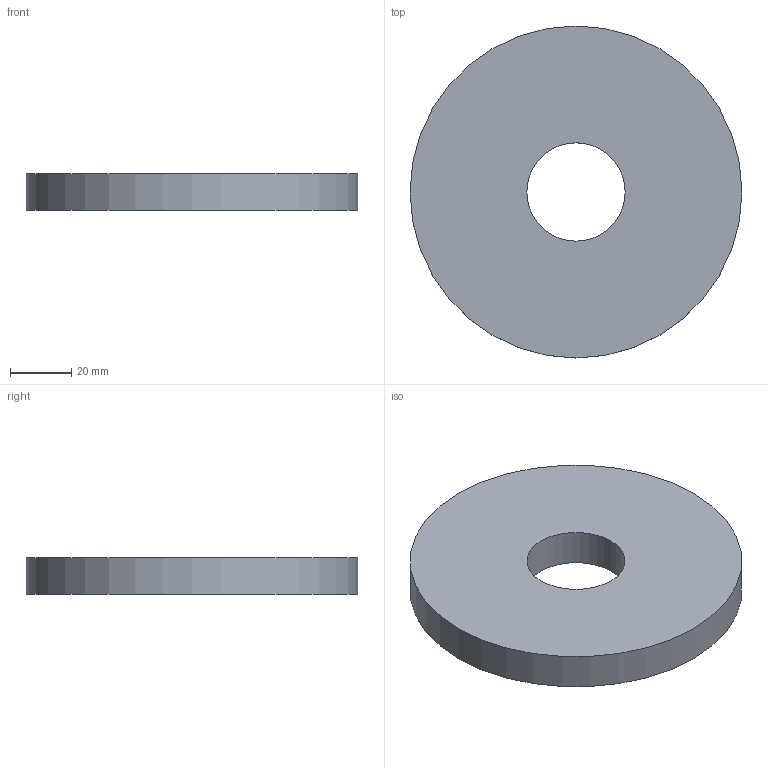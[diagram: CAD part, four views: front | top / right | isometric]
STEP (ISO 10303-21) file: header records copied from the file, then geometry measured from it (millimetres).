
FILE_DESCRIPTION(('FreeCAD Model'),'2;1');
FILE_NAME('Open CASCADE Shape Model','2026-11-05T18:53:51',('FreeCAD'),( 'FreeCAD'),'Open CASCADE STEP processor 7.8','FreeCAD','Unknown');
FILE_SCHEMA(('AUTOMOTIVE_DESIGN { 1 0 10303 214 1 1 1 1 }'));
Length unit declared in the file: millimetre
Products named in the file (1): Open CASCADE STEP translator 7.8 40
Bounding box: 108 x 108 x 12 mm (x, y, z)
Volume: 100279.6 mm3; surface area: 21991.1 mm2
Topology: 1 solids, 1 shells, 4 faces, 6 edges, 4 vertices
Faces by surface type: cylinder 2, plane 2
Full cylindrical faces by diameter (mm): 32 x1, 108 x1
Entity records: 108 total; most frequent: DIRECTION 20, CARTESIAN_POINT 15, ORIENTED_EDGE 12, AXIS2_PLACEMENT_3D 9, FACE_BOUND 6, EDGE_LOOP 6, EDGE_CURVE 6, ADVANCED_FACE 4
